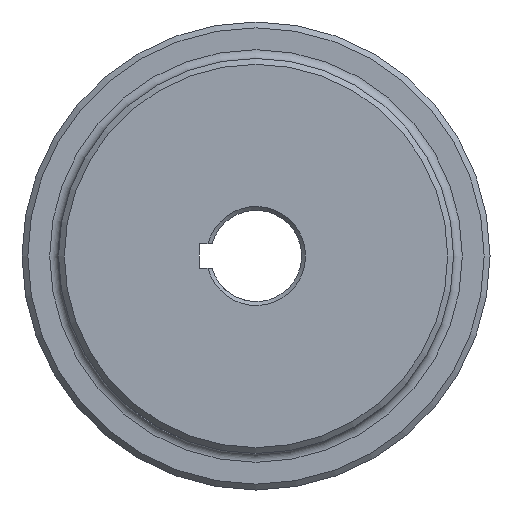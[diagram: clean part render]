
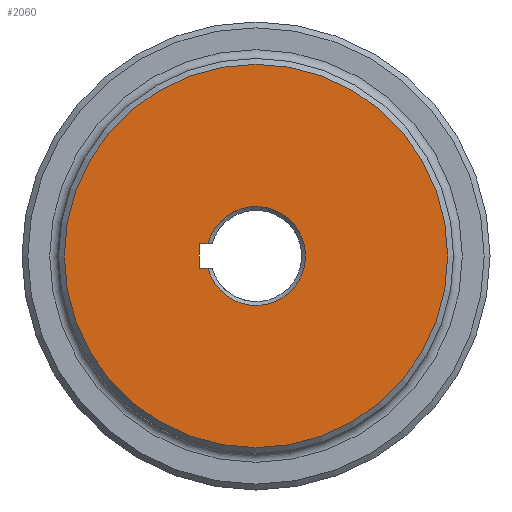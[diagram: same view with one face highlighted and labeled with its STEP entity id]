
A CAD part, left-side view. The second image highlights one B-rep face of the part: STEP entity #2060.
In plain terms, the highlighted planar face has unit normal (-1, 0, 0).
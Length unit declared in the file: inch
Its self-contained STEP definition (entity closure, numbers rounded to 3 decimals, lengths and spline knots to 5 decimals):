
#1 = EDGE_CURVE ( 'NONE', #1994, #1149, #187, .T. ) ;
#21 = DIRECTION ( 'NONE',  ( 0., 0., -1. ) ) ;
#22 = LINE ( 'NONE', #1549, #401 ) ;
#166 = VERTEX_POINT ( 'NONE', #1144 ) ;
#187 = LINE ( 'NONE', #2434, #1639 ) ;
#199 = AXIS2_PLACEMENT_3D ( 'NONE', #2720, #1401, #2676 ) ;
#231 = ORIENTED_EDGE ( 'NONE', *, *, #593, .T. ) ;
#243 = DIRECTION ( 'NONE',  ( -1., 0., 0. ) ) ;
#372 = VERTEX_POINT ( 'NONE', #874 ) ;
#401 = VECTOR ( 'NONE', #2649, 39.37008 ) ;
#435 = CARTESIAN_POINT ( 'NONE',  ( 0., 0.49331, 0.125 ) ) ;
#446 = EDGE_LOOP ( 'NONE', ( #915, #710, #2532, #1196 ) ) ;
#552 = DIRECTION ( 'NONE',  ( 0., 0., -1. ) ) ;
#593 = EDGE_CURVE ( 'NONE', #166, #166, #1178, .T. ) ;
#611 = LINE ( 'NONE', #1028, #2049 ) ;
#644 = FACE_OUTER_BOUND ( 'NONE', #1637, .T. ) ;
#710 = ORIENTED_EDGE ( 'NONE', *, *, #2586, .T. ) ;
#874 = CARTESIAN_POINT ( 'NONE',  ( 0., 0.5831, 0.125 ) ) ;
#915 = ORIENTED_EDGE ( 'NONE', *, *, #2090, .F. ) ;
#925 = AXIS2_PLACEMENT_3D ( 'NONE', #1419, #1152, #21 ) ;
#1028 = CARTESIAN_POINT ( 'NONE',  ( 0., 0.5831, -0.125 ) ) ;
#1096 = EDGE_CURVE ( 'NONE', #372, #1994, #611, .T. ) ;
#1107 = CARTESIAN_POINT ( 'NONE',  ( 0., 0.5831, -0.125 ) ) ;
#1144 = CARTESIAN_POINT ( 'NONE',  ( 0., 0., -1.97 ) ) ;
#1149 = VERTEX_POINT ( 'NONE', #1470 ) ;
#1152 = DIRECTION ( 'NONE',  ( 1., 0., 0. ) ) ;
#1178 = CIRCLE ( 'NONE', #1331, 1.97 ) ;
#1196 = ORIENTED_EDGE ( 'NONE', *, *, #1096, .F. ) ;
#1331 = AXIS2_PLACEMENT_3D ( 'NONE', #1445, #243, #2350 ) ;
#1375 = PLANE ( 'NONE',  #925 ) ;
#1392 = CIRCLE ( 'NONE', #199, 0.5089 ) ;
#1401 = DIRECTION ( 'NONE',  ( 1., 0., 0. ) ) ;
#1419 = CARTESIAN_POINT ( 'NONE',  ( 0., 0., 0. ) ) ;
#1445 = CARTESIAN_POINT ( 'NONE',  ( 0., 0., 0. ) ) ;
#1470 = CARTESIAN_POINT ( 'NONE',  ( 0., 0.49331, -0.125 ) ) ;
#1549 = CARTESIAN_POINT ( 'NONE',  ( 0., 0., 0.125 ) ) ;
#1637 = EDGE_LOOP ( 'NONE', ( #231 ) ) ;
#1639 = VECTOR ( 'NONE', #1740, 39.37008 ) ;
#1740 = DIRECTION ( 'NONE',  ( 0., -1., 0. ) ) ;
#1845 = VERTEX_POINT ( 'NONE', #435 ) ;
#1994 = VERTEX_POINT ( 'NONE', #1107 ) ;
#2049 = VECTOR ( 'NONE', #552, 39.37008 ) ;
#2060 = ADVANCED_FACE ( 'NONE', ( #644, #2328 ), #1375, .F. ) ;
#2090 = EDGE_CURVE ( 'NONE', #1845, #372, #22, .T. ) ;
#2328 = FACE_BOUND ( 'NONE', #446, .T. ) ;
#2350 = DIRECTION ( 'NONE',  ( 0., 0., -1. ) ) ;
#2434 = CARTESIAN_POINT ( 'NONE',  ( 0., 0., -0.125 ) ) ;
#2532 = ORIENTED_EDGE ( 'NONE', *, *, #1, .F. ) ;
#2586 = EDGE_CURVE ( 'NONE', #1845, #1149, #1392, .T. ) ;
#2649 = DIRECTION ( 'NONE',  ( 0., 1., 0. ) ) ;
#2676 = DIRECTION ( 'NONE',  ( 0., 0., -1. ) ) ;
#2720 = CARTESIAN_POINT ( 'NONE',  ( 0., 0., 0. ) ) ;
